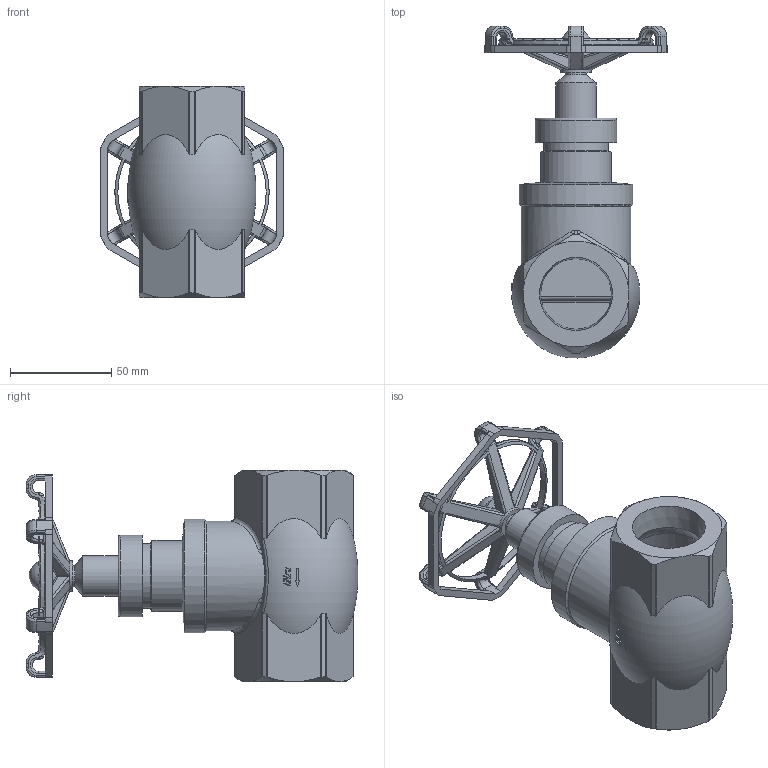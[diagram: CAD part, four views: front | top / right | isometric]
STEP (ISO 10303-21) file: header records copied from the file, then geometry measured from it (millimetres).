
FILE_DESCRIPTION(('STEP AP242'), '1');
FILE_NAME('VSO3131M-1W-T-S 孰囡囗 玎镱痦 DN.ru 捏40 畜16', '', ('UNSPECIFIED'), ('UNSPECIFIED'), 'C3D Converter', 'C3D Toolkit', '');
FILE_SCHEMA(('AP242_MANAGED_MODEL_BASED_3D_ENGINEERING_MIM_LF { 1 0 10303 442 1 1 4 }'));
Length unit declared in the file: millimetre
Products named in the file (1): VSO3131M-1W-T-S
Bounding box: 90.07 x 163.49 x 104 mm (x, y, z)
Volume: 8885.8 mm3; surface area: 77342.1 mm2
Topology: 1 solids, 2 shells, 549 faces, 1495 edges, 946 vertices
Faces by surface type: plane 169, cylinder 135, bspline 114, extrusion 57, torus 42, cone 29, revolution 2, sphere 1
Full cylindrical faces by diameter (mm): 10 x2, 14 x1, 15 x1, 20 x2, 27.871 x2, 28.728 x1, 32 x1, 32.137 x1, 35 x1, 37 x1, 40 x2, 54 x1, 56 x1
Entity records: 42302 total; most frequent: CARTESIAN_POINT 26675, ORIENTED_EDGE 2902, DIRECTION 2045, EDGE_CURVE 1451, VERTEX_POINT 944, AXIS2_PLACEMENT_3D 781, B_SPLINE_CURVE_WITH_KNOTS 678, EDGE_LOOP 615
